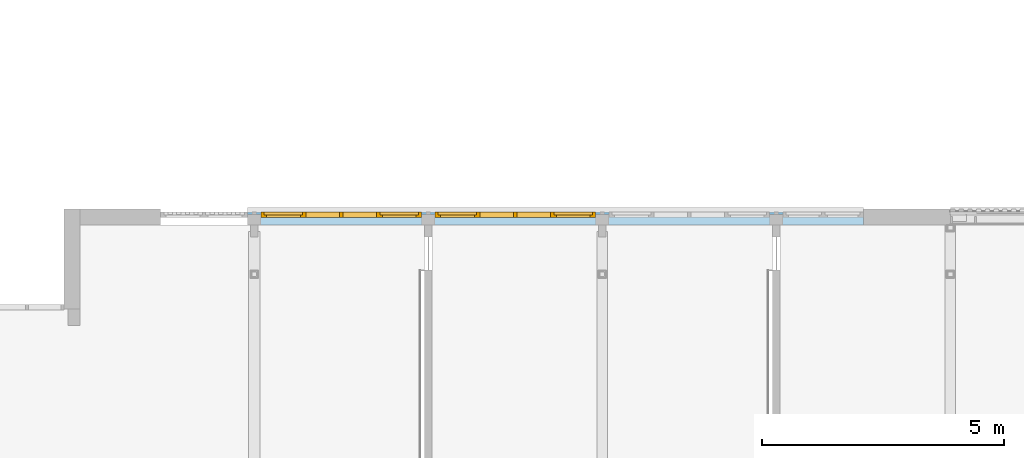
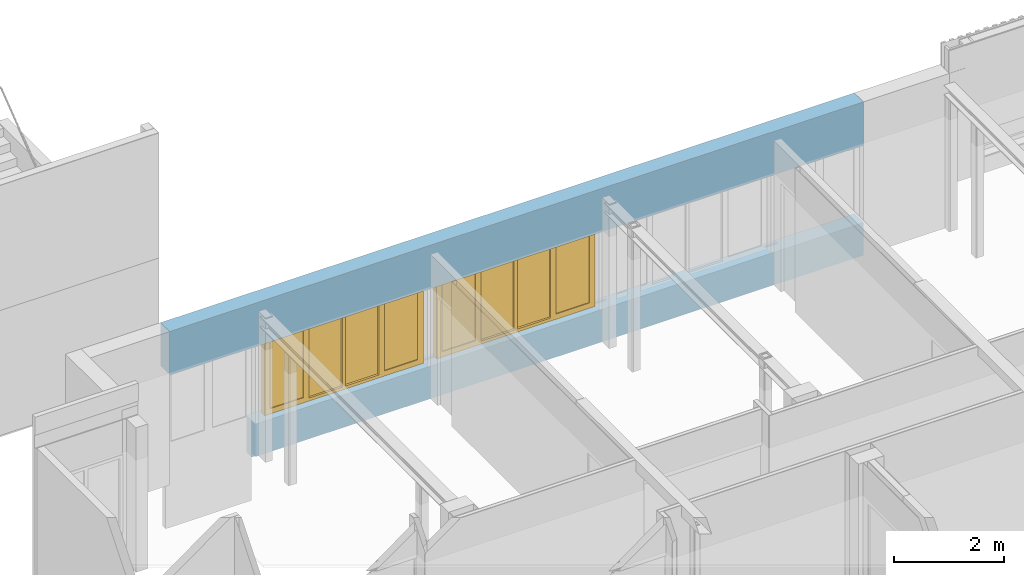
# One storey, part 31 of 99: 2 windows, 5 openings, plus 1 element that does not belong to this part.
"""IFC2X3 building model written with IfcOpenShell, lengths in millimetres."""

from ifc_helpers import new_model, entity, si_unit, converted_unit, derived_unit, money_unit, direction, frame, origin_with_axes, place, context, subcontext, project, spatial, open_shell, faceted_brep, surface_model, source, transform, mapped, material, type_object, type_shapes, element, fill, save


model = new_model("IFC2X3")

# Units and contexts
model_context = context("Model", 3, precision=0.01, world=origin_with_axes(), true_north=direction((0.0, 1.0)))
body_context = subcontext(model_context, "Body", "Model", "MODEL_VIEW")
ifc_project = project(units=[si_unit("LENGTHUNIT", "METRE", prefix="MILLI"), si_unit("AREAUNIT", "SQUARE_METRE"), si_unit("VOLUMEUNIT", "CUBIC_METRE"), converted_unit("PLANEANGLEUNIT", "DEGREE", entity("IfcPlaneAngleMeasure", 0.0174532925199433), si_unit("PLANEANGLEUNIT", "RADIAN"), dimensions=[0, 0, 0, 0, 0, 0, 0]), money_unit("EUR"), converted_unit("TIMEUNIT", "Year", entity("IfcTimeMeasure", 31557600.0), si_unit("TIMEUNIT", "SECOND"), dimensions=[0, 0, 1, 0, 0, 0, 0]), si_unit("MASSUNIT", "GRAM", prefix="KILO"), si_unit("THERMODYNAMICTEMPERATUREUNIT", "DEGREE_CELSIUS"), si_unit("LUMINOUSINTENSITYUNIT", "LUMEN"), si_unit("ENERGYUNIT", "JOULE", prefix="MEGA"), derived_unit("THERMALCONDUCTANCEUNIT", [(si_unit("POWERUNIT", "WATT"), 1), (si_unit("LENGTHUNIT", "METRE"), -1), (si_unit("THERMODYNAMICTEMPERATUREUNIT", "KELVIN"), -1)]), derived_unit("SPECIFICHEATCAPACITYUNIT", [(si_unit("ENERGYUNIT", "JOULE"), 1), (si_unit("MASSUNIT", "GRAM", prefix="KILO"), -1), (si_unit("THERMODYNAMICTEMPERATUREUNIT", "KELVIN"), -1)]), derived_unit("MASSDENSITYUNIT", [(si_unit("MASSUNIT", "GRAM", prefix="KILO"), 1), (si_unit("VOLUMEUNIT", "CUBIC_METRE"), -1)])], contexts=[model_context])

# Site, building, storey
site_placement = place(None, origin_with_axes())
site = spatial("IfcSite", under=ifc_project, at=site_placement, Name="Site", CompositionType="ELEMENT")
building_placement = place(site_placement, origin_with_axes())
building = spatial("IfcBuilding", under=site, at=building_placement, Name="Naam gebouw", CompositionType="ELEMENT")
storey_placement = place(building_placement, frame((0.0, 0.0, 7650.0), z_axis=(0.0, 0.0, 1.0), x_axis=(1.0, 0.0, 0.0)))
storey = spatial("IfcBuildingStorey", under=building, at=storey_placement, Name="2e verdieping N", CompositionType="ELEMENT", Elevation=7650.0)

# Wall, openings, windows
ifc_material = material(Name="ALG - CONSTRUCTIEF")
wall_type = type_object("IfcWallType", Name="ALG - CONSTRUCTIEF 330", PredefinedType="NOTDEFINED")
wall_placement = place(storey_placement, frame((48601.18090496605, 27505.91242510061, -99.99999999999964), z_axis=(0.0, 0.0, 1.0), x_axis=(-1.0, 0.0, 0.0)))
wall = element("IfcWall", 1, at=wall_placement, inside=storey, type_object=wall_type, material=ifc_material, Name="_Wand-x", context=body_context, shape_type="Brep", body=[
    faceted_brep([(12738.68090496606, -259.9999999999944, 0.0), (12738.68090496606, -146.0000000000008, 0.0), (12738.68090496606, -146.0000000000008, 99.99999999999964), (12738.68090496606, -145.9999999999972, 820.0000000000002), (12738.68090496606, 0.0, 820.0000000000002), (12738.68090496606, -216.0000000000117, 820.0000000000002), (12738.68090496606, -259.9999999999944, 820.0000000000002), (12738.68090496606, -329.9999999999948, 820.0000000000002), (12738.68090496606, -329.9999999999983, 0.0), (0.0, -329.9999999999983, 0.0), (0.0, -145.6834109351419, 0.0), (0.0, -145.6834109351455, 99.99999999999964), (12738.68090496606, 0.0, 99.99999999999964), (0.0, 0.0, 820.0000000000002), (0.0, -329.9999999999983, 820.0000000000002), (12463.68090496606, -259.9999999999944, 820.0000000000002), (12463.68090496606, -216.0000000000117, 820.0000000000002), (1938.680904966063, -216.0000000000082, 820.0000000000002), (1938.680904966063, -259.999999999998, 820.0000000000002), (1663.680904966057, -259.999999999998, 820.0000000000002), (1663.680904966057, -216.0000000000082, 820.0000000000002), (5538.680904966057, -216.0000000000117, 820.0000000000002), (5538.680904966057, -259.999999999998, 820.0000000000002), (5263.680904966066, -259.999999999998, 820.0000000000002), (5263.680904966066, -216.0000000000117, 820.0000000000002), (8863.68090496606, -259.999999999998, 820.0000000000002), (8863.68090496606, -216.0000000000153, 820.0000000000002), (9138.680904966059, -216.0000000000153, 820.0000000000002), (9138.680904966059, -259.999999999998, 820.0000000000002), (0.0, 0.0, 99.99999999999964)], [[[0, 1, 2, 3, 4, 5, 6, 7, 8]], [[1, 0, 8, 9, 10]], [[2, 1, 10, 11]], [[3, 2, 12, 4]], [[5, 4, 13, 14, 7, 6, 15, 16], [17, 18, 19, 20], [21, 22, 23, 24], [25, 26, 27, 28]], [[6, 5, 16, 15]], [[7, 14, 9, 8]], [[13, 29, 11, 10, 9, 14]], [[2, 11, 29, 12]], [[29, 13, 4, 12]], [[18, 17, 20, 19]], [[22, 21, 24, 23]], [[26, 25, 28, 27]]]),
    faceted_brep([(12738.68090496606, -216.0000000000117, 2539.999999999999), (12738.68090496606, -259.9999999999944, 2539.999999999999), (12463.68090496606, -259.9999999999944, 2540.000000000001), (12463.68090496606, -216.0000000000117, 2540.000000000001), (12738.68090496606, 0.0, 2539.999999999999), (14538.68090496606, 0.0, 2539.999999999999), (14538.68090496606, -259.9999999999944, 2539.999999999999), (14538.68090496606, -329.9999999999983, 2539.999999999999), (0.0, -329.9999999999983, 2540.000000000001), (0.0, 0.0, 2540.000000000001), (1938.680904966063, -259.999999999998, 2540.000000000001), (1938.680904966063, -216.0000000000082, 2540.000000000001), (1663.680904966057, -216.0000000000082, 2540.000000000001), (1663.680904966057, -259.999999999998, 2540.000000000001), (5538.680904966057, -216.0000000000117, 2540.000000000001), (5263.680904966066, -216.0000000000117, 2540.000000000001), (5263.680904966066, -259.999999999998, 2540.000000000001), (5538.680904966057, -259.999999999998, 2540.000000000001), (8863.68090496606, -259.999999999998, 2540.000000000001), (9138.680904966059, -259.999999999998, 2540.000000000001), (9138.680904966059, -216.0000000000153, 2540.000000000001), (8863.68090496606, -216.0000000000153, 2540.000000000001), (0.0, 0.0, 3500.0), (14538.68090496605, 0.0, 3500.0), (14538.68090496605, -329.9999999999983, 3500.0), (0.0, -329.9999999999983, 3500.0)], [[[0, 1, 2, 3]], [[4, 5, 6, 7, 8, 9], [10, 11, 12, 13], [14, 15, 16, 17], [18, 19, 20, 21], [0, 3, 2, 1]], [[5, 4, 9, 22, 23]], [[6, 5, 23, 24, 7]], [[24, 25, 8, 7]], [[25, 22, 9, 8]], [[11, 10, 13, 12]], [[14, 17, 16, 15]], [[18, 21, 20, 19]], [[23, 22, 25, 24]]]),
])
opening_1_placement = place(wall_placement, frame((3601.180904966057, 0.0, 820.0000000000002), z_axis=(0.0, 0.0, 1.0), x_axis=(1.0, 0.0, 0.0)))
element("IfcOpeningElement", 2, at=opening_1_placement, cuts=wall, Name="_Merk-052", context=body_context, shape_type="Brep", body=[
    faceted_brep([(1937.5, -259.999999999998, 0.0), (1937.5, -259.999999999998, 1720.000000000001), (1937.5, -331.0000000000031, 1720.000000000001), (1937.5, -331.0000000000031, 0.0), (1937.5, 1.000000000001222, 0.0), (1937.5, 1.000000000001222, 1720.000000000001), (-1937.5, -259.999999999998, 1720.000000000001), (-1937.5, -331.0000000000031, 1720.000000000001), (-1937.5, 1.000000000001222, 1720.000000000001), (-1937.5, -331.0000000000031, 0.0), (-1937.5, -259.999999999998, 0.0), (-1937.5, 1.000000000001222, 0.0)], [[[0, 1, 2, 3]], [[1, 0, 4, 5]], [[6, 7, 2, 1, 5, 8]], [[7, 9, 3, 2]], [[0, 3, 9, 10, 11, 4]], [[5, 4, 11, 8]], [[6, 10, 9, 7]], [[10, 6, 8, 11]]]),
])
opening_2_placement = place(wall_placement, frame((831.8404524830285, 0.0, 820.0000000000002), z_axis=(0.0, 0.0, 1.0), x_axis=(1.0, 0.0, 0.0)))
element("IfcOpeningElement", 3, at=opening_2_placement, cuts=wall, Name="_Merk-051", context=body_context, shape_type="Brep", body=[
    faceted_brep([(831.8404524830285, -259.999999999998, 0.0), (831.8404524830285, -259.999999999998, 1720.000000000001), (831.8404524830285, -331.0000000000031, 1720.000000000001), (831.8404524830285, -331.0000000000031, 0.0), (831.8404524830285, 1.000000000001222, 0.0), (831.8404524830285, 1.000000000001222, 1720.000000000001), (-831.8404524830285, -259.999999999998, 1720.000000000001), (-831.8404524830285, -331.0000000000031, 1720.000000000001), (-831.8404524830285, 1.000000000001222, 1720.000000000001), (-831.8404524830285, -331.0000000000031, 0.0), (-831.8404524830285, -259.999999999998, 0.0), (-831.8404524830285, 1.000000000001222, 0.0)], [[[0, 1, 2, 3]], [[1, 0, 4, 5]], [[6, 7, 2, 1, 5, 8]], [[7, 9, 3, 2]], [[0, 3, 9, 10, 11, 4]], [[5, 4, 11, 8]], [[6, 10, 9, 7]], [[10, 6, 8, 11]]]),
])
opening_3_placement = place(wall_placement, frame((7201.180904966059, 0.0, 820.0000000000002), z_axis=(0.0, 0.0, 1.0), x_axis=(1.0, 0.0, 0.0)))
opening_3 = element("IfcOpeningElement", 4, at=opening_3_placement, cuts=wall, Name="_Merk-052", context=body_context, shape_type="Brep", body=[
    faceted_brep([(1937.5, -259.999999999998, 0.0), (1937.5, -259.999999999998, 1720.000000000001), (1937.5, -331.0000000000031, 1720.000000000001), (1937.5, -331.0000000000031, 0.0), (1937.5, 1.000000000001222, 0.0), (1937.5, 1.000000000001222, 1720.000000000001), (-1937.5, -259.999999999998, 1720.000000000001), (-1937.5, -331.0000000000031, 1720.000000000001), (-1937.5, 1.000000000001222, 1720.000000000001), (-1937.5, -331.0000000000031, 0.0), (-1937.5, -259.999999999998, 0.0), (-1937.5, 1.000000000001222, 0.0)], [[[0, 1, 2, 3]], [[1, 0, 4, 5]], [[6, 7, 2, 1, 5, 8]], [[7, 9, 3, 2]], [[0, 3, 9, 10, 11, 4]], [[5, 4, 11, 8]], [[6, 10, 9, 7]], [[10, 6, 8, 11]]]),
])
opening_4_placement = place(wall_placement, frame((13638.68090496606, 0.0, -960.0000000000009), z_axis=(0.0, 0.0, 1.0), x_axis=(1.0, 0.0, 0.0)))
element("IfcOpeningElement", 5, at=opening_4_placement, cuts=wall, Name="_Merk-051", context=body_context, shape_type="Brep", body=[
    faceted_brep([(899.9999999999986, -259.9999999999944, -1060.0), (899.9999999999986, -259.9999999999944, 3500.0), (899.9999999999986, -330.9999999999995, 3500.0), (899.9999999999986, -330.9999999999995, -1060.0), (899.9999999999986, 1.000000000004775, -1060.0), (899.9999999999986, 1.000000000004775, 3500.0), (-899.9999999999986, -259.9999999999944, 3500.0), (-899.9999999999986, -330.9999999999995, 3500.0), (-899.9999999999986, 1.000000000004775, 3500.0), (-899.9999999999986, -330.9999999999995, -1060.0), (-899.9999999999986, -259.9999999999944, -1060.0), (-899.9999999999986, 1.000000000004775, -1060.0)], [[[0, 1, 2, 3]], [[1, 0, 4, 5]], [[6, 7, 2, 1, 5, 8]], [[7, 9, 3, 2]], [[0, 3, 9, 10, 11, 4]], [[5, 4, 11, 8]], [[6, 10, 9, 7]], [[10, 6, 8, 11]]]),
])
opening_5_placement = place(wall_placement, frame((10801.18090496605, 0.0, 820.0000000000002), z_axis=(0.0, 0.0, 1.0), x_axis=(1.0, 0.0, 0.0)))
opening_5 = element("IfcOpeningElement", 6, at=opening_5_placement, cuts=wall, Name="_Merk-052", context=body_context, shape_type="Brep", body=[
    faceted_brep([(1937.5, -259.9999999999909, 0.0), (1937.5, -259.9999999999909, 1720.000000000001), (1937.5, -330.999999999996, 1720.000000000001), (1937.5, -330.999999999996, 0.0), (1937.5, 1.000000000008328, 0.0), (1937.5, 1.000000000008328, 1720.000000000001), (-1937.5, -259.9999999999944, 1720.000000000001), (-1937.5, -330.9999999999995, 1720.000000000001), (-1937.5, 1.000000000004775, 1720.000000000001), (-1937.5, -330.9999999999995, 0.0), (-1937.5, -259.9999999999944, 0.0), (-1937.5, 1.000000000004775, 0.0)], [[[0, 1, 2, 3]], [[1, 0, 4, 5]], [[6, 7, 2, 1, 5, 8]], [[7, 9, 3, 2]], [[0, 3, 9, 10, 11, 4]], [[5, 4, 11, 8]], [[6, 10, 9, 7]], [[10, 6, 8, 11]]]),
])
window_style = type_object("IfcWindowStyle", Name="Rnx horizontaal 26", ConstructionType="NOTDEFINED", OperationType="USERDEFINED", ParameterTakesPrecedence=False, Sizeable=False)
shared_shape = source(origin_with_axes(), body_context, "Body", "SurfaceModel", [
    faceted_brep([(1612.5, 0.0, 1653.0), (1612.5, -54.0000000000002, 1653.0), (1595.5, -54.00000000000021, 1653.0), (1595.5, -114.0000000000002, 1653.0), (1662.5, -114.0000000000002, 1653.0), (1662.5, 0.0, 1653.0), (1612.5, 0.0, 66.99999999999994), (1612.5, -54.00000000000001, 66.99999999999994), (1595.5, -54.00000000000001, 66.99999999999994), (1595.5, -114.0, 66.99999999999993), (1662.5, -114.0, 66.99999999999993), (1662.5, 0.0, 66.99999999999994)], [[[0, 1, 2, 3, 4, 5]], [[1, 0, 6, 7]], [[8, 2, 1, 7]], [[2, 8, 9, 3]], [[4, 3, 9, 10]], [[5, 4, 10, 11]], [[6, 0, 5, 11]], [[7, 6, 11, 10, 9, 8]]]),
    faceted_brep([(-1595.5, -54.00000000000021, 1653.0), (-1612.5, -54.0000000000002, 1653.0), (-1612.5, 0.0, 1653.0), (-1662.5, 0.0, 1653.0), (-1662.5, -114.0000000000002, 1653.0), (-1595.5, -114.0000000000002, 1653.0), (-1595.5, -54.00000000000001, 66.99999999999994), (-1612.5, -54.00000000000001, 66.99999999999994), (-1612.5, 0.0, 66.99999999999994), (-1662.5, 0.0, 66.99999999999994), (-1662.5, -114.0, 66.99999999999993), (-1595.5, -114.0, 66.99999999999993)], [[[0, 1, 2, 3, 4, 5]], [[1, 0, 6, 7]], [[8, 2, 1, 7]], [[2, 8, 9, 3]], [[9, 10, 4, 3]], [[10, 11, 5, 4]], [[6, 0, 5, 11]], [[7, 6, 11, 10, 9, 8]]]),
    faceted_brep([(1612.5, 0.0, 1653.0), (1612.5, 0.0, 1670.0), (781.0000000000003, 0.0, 1670.0), (781.0000000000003, 0.0, 1653.0), (731.0000000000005, 0.0, 1653.0), (33.50000000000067, 0.0, 1653.0), (-33.49999999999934, 0.0, 1653.0), (-730.9999999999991, 0.0, 1653.0), (-780.999999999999, 0.0, 1653.0), (-780.999999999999, 0.0, 1670.0), (-1612.5, 0.0, 1670.0), (-1612.5, 0.0, 1653.0), (-1662.5, 0.0, 1653.0), (-1662.5, 0.0, 1720.0), (1662.5, 0.0, 1720.0), (1662.5, 0.0, 1653.0), (1612.5, -54.0000000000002, 1653.0), (1612.5, -54.0000000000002, 1670.0), (781.0000000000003, -54.0000000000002, 1670.0), (781.0000000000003, -54.0000000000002, 1653.0), (798.0000000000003, -54.00000000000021, 1653.0), (798.0000000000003, -114.0000000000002, 1653.0), (731.0000000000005, -114.0000000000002, 1653.0), (33.50000000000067, -114.0000000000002, 1653.0), (-33.49999999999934, -114.0000000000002, 1653.0), (-730.9999999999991, -114.0000000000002, 1653.0), (-780.999999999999, -54.0000000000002, 1653.0), (-797.9999999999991, -114.0000000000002, 1653.0), (-797.9999999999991, -54.00000000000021, 1653.0), (-780.999999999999, -54.0000000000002, 1670.0), (-1612.5, -54.0000000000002, 1670.0), (-1612.5, -54.0000000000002, 1653.0), (-1595.5, -54.00000000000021, 1653.0), (-1595.5, -114.0000000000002, 1653.0), (-1662.5, -114.0000000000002, 1653.0), (-1662.5, -114.0000000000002, 1720.0), (1662.5, -114.0000000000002, 1720.0), (1662.5, -114.0000000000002, 1653.0), (1595.5, -114.0000000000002, 1653.0), (1595.5, -54.00000000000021, 1653.0)], [[[0, 1, 2, 3, 4, 5, 6, 7, 8, 9, 10, 11, 12, 13, 14, 15]], [[1, 0, 16, 17]], [[2, 1, 17, 18]], [[3, 2, 18, 19]], [[19, 20, 21, 22, 4, 3]], [[4, 22, 23, 5]], [[5, 23, 24, 6]], [[6, 24, 25, 7]], [[26, 8, 7, 25, 27, 28]], [[9, 8, 26, 29]], [[10, 9, 29, 30]], [[11, 10, 30, 31]], [[31, 32, 33, 34, 12, 11]], [[12, 34, 35, 13]], [[13, 35, 36, 14]], [[14, 36, 37, 15]], [[16, 0, 15, 37, 38, 39]], [[20, 19, 18, 17, 16, 39]], [[20, 39, 38, 21]], [[34, 33, 27, 25, 24, 23, 22, 21, 38, 37, 36, 35]], [[32, 28, 27, 33]], [[32, 31, 30, 29, 26, 28]]]),
    faceted_brep([(798.0000000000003, -54.00000000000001, 66.99999999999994), (781.0000000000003, -54.00000000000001, 66.99999999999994), (781.0000000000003, 0.0, 66.99999999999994), (731.0000000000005, 0.0, 66.99999999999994), (731.0000000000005, -114.0, 66.99999999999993), (798.0000000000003, -114.0, 66.99999999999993), (1595.5, -54.00000000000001, 66.99999999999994), (1612.5, -54.00000000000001, 66.99999999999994), (1612.5, -54.00000000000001, 50.00000000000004), (781.0000000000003, -54.00000000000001, 50.00000000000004), (781.0000000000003, 0.0, 50.00000000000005), (1612.5, 0.0, 50.00000000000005), (1612.5, 0.0, 66.99999999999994), (1662.5, 0.0, 66.99999999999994), (1662.5, 0.0, 0.0), (-1662.5, 0.0, 0.0), (-1662.5, 0.0, 66.99999999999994), (-1612.5, 0.0, 66.99999999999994), (-1612.5, 0.0, 50.00000000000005), (-780.999999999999, 0.0, 50.00000000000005), (-780.999999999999, 0.0, 66.99999999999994), (-730.9999999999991, 0.0, 66.99999999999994), (-33.49999999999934, 0.0, 66.99999999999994), (33.50000000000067, 0.0, 66.99999999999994), (33.50000000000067, -114.0, 66.99999999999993), (-730.9999999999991, -114.0, 66.99999999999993), (-797.9999999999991, -114.0, 66.99999999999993), (-1595.5, -114.0, 66.99999999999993), (-1662.5, -114.0, 66.99999999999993), (-1662.5, -114.0, 0.0), (1662.5, -114.0, 0.0), (1662.5, -114.0, 66.99999999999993), (1595.5, -114.0, 66.99999999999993), (-33.49999999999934, -114.0, 66.99999999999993), (-1595.5, -54.00000000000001, 66.99999999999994), (-1612.5, -54.00000000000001, 66.99999999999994), (-1612.5, -54.00000000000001, 50.00000000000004), (-780.999999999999, -54.00000000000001, 50.00000000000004), (-780.999999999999, -54.00000000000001, 66.99999999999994), (-797.9999999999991, -54.00000000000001, 66.99999999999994)], [[[0, 1, 2, 3, 4, 5]], [[1, 0, 6, 7, 8, 9]], [[10, 2, 1, 9]], [[11, 12, 13, 14, 15, 16, 17, 18, 19, 20, 21, 22, 23, 3, 2, 10]], [[23, 24, 4, 3]], [[25, 26, 27, 28, 29, 30, 31, 32, 5, 4, 24, 33]], [[6, 0, 5, 32]], [[7, 6, 32, 31, 13, 12]], [[7, 12, 11, 8]], [[11, 10, 9, 8]], [[13, 31, 30, 14]], [[14, 30, 29, 15]], [[15, 29, 28, 16]], [[34, 35, 17, 16, 28, 27]], [[18, 17, 35, 36]], [[19, 18, 36, 37]], [[38, 20, 19, 37]], [[38, 39, 26, 25, 21, 20]], [[21, 25, 33, 22]], [[22, 33, 24, 23]], [[39, 34, 27, 26]], [[35, 34, 39, 38, 37, 36]]]),
    faceted_brep([(798.0000000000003, -54.00000000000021, 1653.0), (781.0000000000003, -54.0000000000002, 1653.0), (781.0000000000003, 0.0, 1653.0), (731.0000000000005, 0.0, 1653.0), (731.0000000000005, -114.0000000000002, 1653.0), (798.0000000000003, -114.0000000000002, 1653.0), (798.0000000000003, -54.00000000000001, 66.99999999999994), (781.0000000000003, -54.00000000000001, 66.99999999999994), (781.0000000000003, 0.0, 66.99999999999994), (731.0000000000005, 0.0, 66.99999999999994), (731.0000000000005, -114.0, 66.99999999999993), (798.0000000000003, -114.0, 66.99999999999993)], [[[0, 1, 2, 3, 4, 5]], [[1, 0, 6, 7]], [[8, 2, 1, 7]], [[2, 8, 9, 3]], [[9, 10, 4, 3]], [[4, 10, 11, 5]], [[6, 0, 5, 11]], [[7, 6, 11, 10, 9, 8]]]),
    faceted_brep([(-33.49999999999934, 0.0, 66.99999999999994), (-33.49999999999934, -114.0, 66.99999999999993), (-33.49999999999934, -114.0000000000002, 1653.0), (-33.49999999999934, 0.0, 1653.0), (33.50000000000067, 0.0, 66.99999999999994), (33.50000000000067, -114.0, 66.99999999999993), (33.50000000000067, -114.0000000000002, 1653.0), (33.50000000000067, 0.0, 1653.0)], [[[0, 1, 2, 3]], [[4, 5, 1, 0]], [[2, 1, 5, 6]], [[3, 2, 6, 7]], [[4, 0, 3, 7]], [[7, 6, 5, 4]]]),
    faceted_brep([(-780.999999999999, 0.0, 1653.0), (-780.999999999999, -54.0000000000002, 1653.0), (-797.9999999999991, -54.00000000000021, 1653.0), (-797.9999999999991, -114.0000000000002, 1653.0), (-730.9999999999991, -114.0000000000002, 1653.0), (-730.9999999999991, 0.0, 1653.0), (-780.999999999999, 0.0, 66.99999999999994), (-780.999999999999, -54.00000000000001, 66.99999999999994), (-797.9999999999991, -54.00000000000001, 66.99999999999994), (-797.9999999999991, -114.0, 66.99999999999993), (-730.9999999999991, -114.0, 66.99999999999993), (-730.9999999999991, 0.0, 66.99999999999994)], [[[0, 1, 2, 3, 4, 5]], [[1, 0, 6, 7]], [[8, 2, 1, 7]], [[2, 8, 9, 3]], [[3, 9, 10, 4]], [[5, 4, 10, 11]], [[6, 0, 5, 11]], [[7, 6, 11, 10, 9, 8]]]),
    faceted_brep([(1545.5, -54.00000000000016, 1603.0), (1612.5, -54.00000000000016, 1603.0), (1612.5, 0.0, 1603.0), (1545.5, 0.0, 1603.0), (1545.5, -53.99999999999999, 117.0), (1612.5, -53.99999999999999, 117.0), (1612.5, 0.0, 117.0), (1545.5, 0.0, 117.0)], [[[0, 1, 2, 3]], [[0, 4, 5, 1]], [[1, 5, 6, 2]], [[3, 2, 6, 7]], [[4, 0, 3, 7]], [[5, 4, 7, 6]]]),
    faceted_brep([(848.0000000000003, -54.00000000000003, 117.0), (781.0000000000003, -54.00000000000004, 117.0), (781.0000000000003, 0.0, 117.0), (848.0000000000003, 0.0, 117.0), (848.0000000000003, -54.00000000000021, 1603.0), (781.0000000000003, -54.00000000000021, 1603.0), (781.0000000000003, 0.0, 1603.0), (848.0000000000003, 0.0, 1603.0)], [[[0, 1, 2, 3]], [[0, 4, 5, 1]], [[1, 5, 6, 2]], [[3, 2, 6, 7]], [[4, 0, 3, 7]], [[5, 4, 7, 6]]]),
    faceted_brep([(781.0000000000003, -54.00000000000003, 50.00000000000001), (781.0000000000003, -54.00000000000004, 117.0), (781.0000000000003, 0.0, 117.0), (781.0000000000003, 0.0, 50.00000000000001), (1612.5, -53.99999999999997, 50.00000000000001), (1612.5, -53.99999999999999, 117.0), (1545.5, -53.99999999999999, 117.0), (848.0000000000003, -54.00000000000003, 117.0), (848.0000000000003, 0.0, 117.0), (1545.5, 0.0, 117.0), (1612.5, 0.0, 117.0), (1612.5, 0.0, 50.00000000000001)], [[[0, 1, 2, 3]], [[0, 4, 5, 6, 7, 1]], [[1, 7, 8, 2]], [[3, 2, 8, 9, 10, 11]], [[4, 0, 3, 11]], [[5, 4, 11, 10]], [[6, 5, 10, 9]], [[7, 6, 9, 8]]]),
    faceted_brep([(1612.5, -54.00000000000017, 1670.0), (1612.5, -54.00000000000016, 1603.0), (1612.5, 0.0, 1603.0), (1612.5, 0.0, 1670.0), (781.0000000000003, -54.00000000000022, 1670.0), (781.0000000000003, -54.00000000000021, 1603.0), (848.0000000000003, -54.00000000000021, 1603.0), (1545.5, -54.00000000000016, 1603.0), (1545.5, 0.0, 1603.0), (848.0000000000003, 0.0, 1603.0), (781.0000000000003, 0.0, 1603.0), (781.0000000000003, 0.0, 1670.0)], [[[0, 1, 2, 3]], [[0, 4, 5, 6, 7, 1]], [[1, 7, 8, 2]], [[3, 2, 8, 9, 10, 11]], [[4, 0, 3, 11]], [[5, 4, 11, 10]], [[6, 5, 10, 9]], [[7, 6, 9, 8]]]),
    surface_model("IfcShellBasedSurfaceModel", [(1545.5, -37.00000000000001, 117.0), (1545.5, -37.00000000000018, 1603.0), (848.0000000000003, -37.00000000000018, 1603.0), (848.0000000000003, -37.00000000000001, 117.0)], [open_shell([[[0, 1, 2, 3]]])]),
    surface_model("IfcShellBasedSurfaceModel", [(1545.5, -17.0, 117.0), (848.0000000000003, -17.0, 117.0), (848.0000000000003, -17.00000000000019, 1603.0), (1545.5, -17.00000000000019, 1603.0)], [open_shell([[[0, 1, 2, 3]]])]),
    surface_model("IfcShellBasedSurfaceModel", [(731.0000000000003, -64.0, 66.99999999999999), (731.0000000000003, -64.0000000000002, 1653.0), (33.50000000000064, -64.0000000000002, 1653.0), (33.50000000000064, -64.0, 66.99999999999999)], [open_shell([[[0, 1, 2, 3]]])]),
    surface_model("IfcShellBasedSurfaceModel", [(731.0000000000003, -44.0, 66.99999999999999), (33.50000000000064, -44.0, 66.99999999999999), (33.50000000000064, -44.00000000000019, 1653.0), (731.0000000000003, -44.00000000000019, 1653.0)], [open_shell([[[0, 1, 2, 3]]])]),
    surface_model("IfcShellBasedSurfaceModel", [(-33.49999999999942, -64.0, 66.99999999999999), (-33.49999999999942, -64.0000000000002, 1653.0), (-730.9999999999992, -64.0000000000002, 1653.0), (-730.9999999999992, -64.0, 66.99999999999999)], [open_shell([[[0, 1, 2, 3]]])]),
    surface_model("IfcShellBasedSurfaceModel", [(-33.49999999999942, -44.0, 66.99999999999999), (-730.9999999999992, -44.0, 66.99999999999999), (-730.9999999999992, -44.00000000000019, 1653.0), (-33.49999999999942, -44.00000000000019, 1653.0)], [open_shell([[[0, 1, 2, 3]]])]),
    faceted_brep([(-847.9999999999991, -54.00000000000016, 1603.0), (-780.999999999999, -54.00000000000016, 1603.0), (-780.999999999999, 0.0, 1603.0), (-847.9999999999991, 0.0, 1603.0), (-847.9999999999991, -53.99999999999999, 117.0), (-780.999999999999, -53.99999999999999, 117.0), (-780.999999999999, 0.0, 117.0), (-847.9999999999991, 0.0, 117.0)], [[[0, 1, 2, 3]], [[0, 4, 5, 1]], [[1, 5, 6, 2]], [[3, 2, 6, 7]], [[4, 0, 3, 7]], [[5, 4, 7, 6]]]),
    faceted_brep([(-1545.5, -54.00000000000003, 117.0), (-1612.5, -54.00000000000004, 117.0), (-1612.5, 0.0, 117.0), (-1545.5, 0.0, 117.0), (-1545.5, -54.00000000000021, 1603.0), (-1612.5, -54.00000000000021, 1603.0), (-1612.5, 0.0, 1603.0), (-1545.5, 0.0, 1603.0)], [[[0, 1, 2, 3]], [[0, 4, 5, 1]], [[1, 5, 6, 2]], [[3, 2, 6, 7]], [[4, 0, 3, 7]], [[5, 4, 7, 6]]]),
    faceted_brep([(-1612.5, -54.00000000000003, 50.00000000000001), (-1612.5, -54.00000000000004, 117.0), (-1612.5, 0.0, 117.0), (-1612.5, 0.0, 50.00000000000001), (-780.999999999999, -53.99999999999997, 50.00000000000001), (-780.999999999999, -53.99999999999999, 117.0), (-847.9999999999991, -53.99999999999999, 117.0), (-1545.5, -54.00000000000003, 117.0), (-1545.5, 0.0, 117.0), (-847.9999999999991, 0.0, 117.0), (-780.999999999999, 0.0, 117.0), (-780.999999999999, 0.0, 50.00000000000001)], [[[0, 1, 2, 3]], [[0, 4, 5, 6, 7, 1]], [[1, 7, 8, 2]], [[3, 2, 8, 9, 10, 11]], [[4, 0, 3, 11]], [[5, 4, 11, 10]], [[6, 5, 10, 9]], [[7, 6, 9, 8]]]),
    faceted_brep([(-780.999999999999, -54.00000000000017, 1670.0), (-780.999999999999, -54.00000000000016, 1603.0), (-780.999999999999, 0.0, 1603.0), (-780.999999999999, 0.0, 1670.0), (-1612.5, -54.00000000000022, 1670.0), (-1612.5, -54.00000000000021, 1603.0), (-1545.5, -54.00000000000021, 1603.0), (-847.9999999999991, -54.00000000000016, 1603.0), (-847.9999999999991, 0.0, 1603.0), (-1545.5, 0.0, 1603.0), (-1612.5, 0.0, 1603.0), (-1612.5, 0.0, 1670.0)], [[[0, 1, 2, 3]], [[0, 4, 5, 6, 7, 1]], [[1, 7, 8, 2]], [[3, 2, 8, 9, 10, 11]], [[4, 0, 3, 11]], [[5, 4, 11, 10]], [[6, 5, 10, 9]], [[7, 6, 9, 8]]]),
    surface_model("IfcShellBasedSurfaceModel", [(-847.9999999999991, -37.00000000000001, 117.0), (-847.9999999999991, -37.00000000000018, 1603.0), (-1545.5, -37.00000000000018, 1603.0), (-1545.5, -37.00000000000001, 117.0)], [open_shell([[[0, 1, 2, 3]]])]),
    surface_model("IfcShellBasedSurfaceModel", [(-847.9999999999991, -17.0, 117.0), (-1545.5, -17.0, 117.0), (-1545.5, -17.00000000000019, 1603.0), (-847.9999999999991, -17.00000000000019, 1603.0)], [open_shell([[[0, 1, 2, 3]]])]),
])
type_shapes(window_style, [shared_shape])
window_1_placement = place(opening_3_placement, frame((-1662.500000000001, 0.0, 0.0), z_axis=(0.0, 0.0, 1.0), x_axis=(1.0, 0.0, 0.0)))
window_1 = element("IfcWindow", 7, at=window_1_placement, inside=storey, type_object=window_style, Name="_Merk-052", ObjectType="WINDOW", OverallHeight=1720.0, OverallWidth=3325.0, context=body_context, shape_type="MappedRepresentation", body=[
    mapped(shared_shape, transform((1662.500000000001, -145.9999999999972, 0.0))),
])
fill(opening_3, window_1)
window_2_placement = place(opening_5_placement, frame((-1662.500000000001, 0.0, 0.0), z_axis=(0.0, 0.0, 1.0), x_axis=(1.0, 0.0, 0.0)))
window_2 = element("IfcWindow", 8, at=window_2_placement, inside=storey, type_object=window_style, Name="_Merk-052", ObjectType="WINDOW", OverallHeight=1720.0, OverallWidth=3325.0, context=body_context, shape_type="MappedRepresentation", body=[
    mapped(shared_shape, transform((1662.500000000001, -145.9999999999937, 0.0))),
])
fill(opening_5, window_2)

save(model, "model.ifc")
